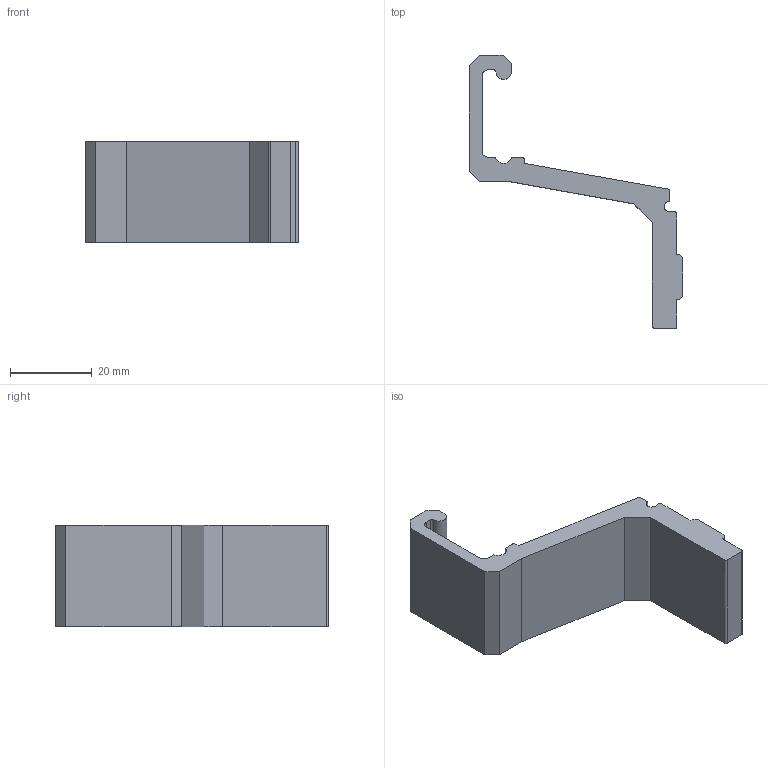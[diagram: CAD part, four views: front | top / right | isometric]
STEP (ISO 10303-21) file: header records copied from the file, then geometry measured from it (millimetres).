
FILE_DESCRIPTION (( 'STEP AP214' ), '1' );
FILE_NAME ('FGRB 48X30.step', '2017-04-05T07:39:00', ( '' ), ( '' ), 'SwSTEP 2.0', 'SolidWorks 2015', '' );
FILE_SCHEMA (( 'AUTOMOTIVE_DESIGN' ));
Length unit declared in the file: millimetre
Products named in the file (1): FGRB 48X30
Bounding box: 52.5 x 67 x 25 mm (x, y, z)
Volume: 14026 mm3; surface area: 7086.7 mm2
Topology: 1 solids, 1 shells, 42 faces, 120 edges, 80 vertices
Faces by surface type: plane 29, cylinder 13
Entity records: 1404 total; most frequent: CARTESIAN_POINT 243, ORIENTED_EDGE 240, DIRECTION 232, EDGE_CURVE 120, LINE 94, VECTOR 94, VERTEX_POINT 80, AXIS2_PLACEMENT_3D 69
